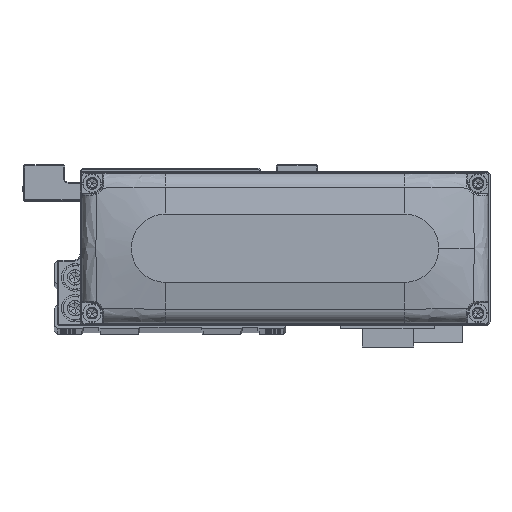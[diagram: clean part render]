
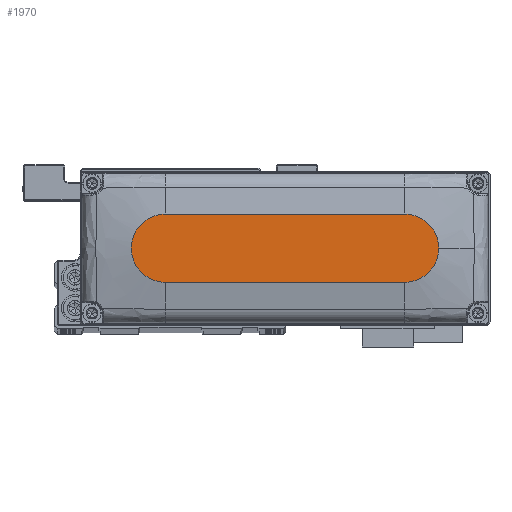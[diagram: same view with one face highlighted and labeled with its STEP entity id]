
A CAD part, top view. The second image highlights one B-rep face of the part: STEP entity #1970.
In plain terms, the highlighted planar face has unit normal (0, 0, 1).
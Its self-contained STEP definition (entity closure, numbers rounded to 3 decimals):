
#175 = DIRECTION ( 'NONE',  ( 1., 0., 0. ) ) ;
#454 = CIRCLE ( 'NONE', #5897, 10. ) ;
#1970 = ADVANCED_FACE ( 'NONE', ( #21714 ), #34683, .T. ) ;
#2245 = ORIENTED_EDGE ( 'NONE', *, *, #27788, .T. ) ;
#3438 = LINE ( 'NONE', #16412, #36508 ) ;
#5590 = CARTESIAN_POINT ( 'NONE',  ( 0., 0., 28. ) ) ;
#5897 = AXIS2_PLACEMENT_3D ( 'NONE', #16326, #29278, #175 ) ;
#8110 = CIRCLE ( 'NONE', #31844, 10. ) ;
#8505 = ORIENTED_EDGE ( 'NONE', *, *, #25638, .T. ) ;
#8994 = DIRECTION ( 'NONE',  ( -1., 0., 0. ) ) ;
#9977 = DIRECTION ( 'NONE',  ( 0., 0., 1. ) ) ;
#10004 = DIRECTION ( 'NONE',  ( 0., 0., 1. ) ) ;
#10602 = CARTESIAN_POINT ( 'NONE',  ( -35., -10., 28. ) ) ;
#11427 = VERTEX_POINT ( 'NONE', #36728 ) ;
#15017 = CARTESIAN_POINT ( 'NONE',  ( -35., 10., 28. ) ) ;
#16279 = VECTOR ( 'NONE', #8994, 1000. ) ;
#16326 = CARTESIAN_POINT ( 'NONE',  ( 35., 0., 28. ) ) ;
#16412 = CARTESIAN_POINT ( 'NONE',  ( -35., -10., 28. ) ) ;
#16429 = AXIS2_PLACEMENT_3D ( 'NONE', #39091, #9977, #22923 ) ;
#18549 = DIRECTION ( 'NONE',  ( 0., 0., 1. ) ) ;
#19833 = VERTEX_POINT ( 'NONE', #10602 ) ;
#21714 = FACE_OUTER_BOUND ( 'NONE', #27985, .T. ) ;
#21975 = EDGE_CURVE ( 'NONE', #27596, #41119, #25118, .T. ) ;
#22923 = DIRECTION ( 'NONE',  ( 1., 0., 0. ) ) ;
#22959 = DIRECTION ( 'NONE',  ( 1., 0., 0. ) ) ;
#25118 = LINE ( 'NONE', #38093, #16279 ) ;
#25638 = EDGE_CURVE ( 'NONE', #38200, #27596, #34740, .T. ) ;
#25829 = ORIENTED_EDGE ( 'NONE', *, *, #34368, .T. ) ;
#26548 = AXIS2_PLACEMENT_3D ( 'NONE', #5590, #18549, #31495 ) ;
#27596 = VERTEX_POINT ( 'NONE', #31071 ) ;
#27788 = EDGE_CURVE ( 'NONE', #19833, #11427, #3438, .T. ) ;
#27985 = EDGE_LOOP ( 'NONE', ( #32021, #34989, #2245, #25829, #8505 ) ) ;
#29278 = DIRECTION ( 'NONE',  ( 0., 0., 1. ) ) ;
#29359 = DIRECTION ( 'NONE',  ( 1., 0., 0. ) ) ;
#31071 = CARTESIAN_POINT ( 'NONE',  ( 35., 10., 28. ) ) ;
#31495 = DIRECTION ( 'NONE',  ( 1., 0., 0. ) ) ;
#31844 = AXIS2_PLACEMENT_3D ( 'NONE', #39118, #10004, #22959 ) ;
#32021 = ORIENTED_EDGE ( 'NONE', *, *, #21975, .T. ) ;
#34368 = EDGE_CURVE ( 'NONE', #11427, #38200, #454, .T. ) ;
#34683 = PLANE ( 'NONE',  #26548 ) ;
#34740 = CIRCLE ( 'NONE', #16429, 10. ) ;
#34989 = ORIENTED_EDGE ( 'NONE', *, *, #38860, .T. ) ;
#36508 = VECTOR ( 'NONE', #29359, 1000. ) ;
#36728 = CARTESIAN_POINT ( 'NONE',  ( 35., -10., 28. ) ) ;
#38093 = CARTESIAN_POINT ( 'NONE',  ( -35., 10., 28. ) ) ;
#38200 = VERTEX_POINT ( 'NONE', #41117 ) ;
#38860 = EDGE_CURVE ( 'NONE', #41119, #19833, #8110, .T. ) ;
#39091 = CARTESIAN_POINT ( 'NONE',  ( 35., 0., 28. ) ) ;
#39118 = CARTESIAN_POINT ( 'NONE',  ( -35., 0., 28. ) ) ;
#41117 = CARTESIAN_POINT ( 'NONE',  ( 45., 0., 28. ) ) ;
#41119 = VERTEX_POINT ( 'NONE', #15017 ) ;
